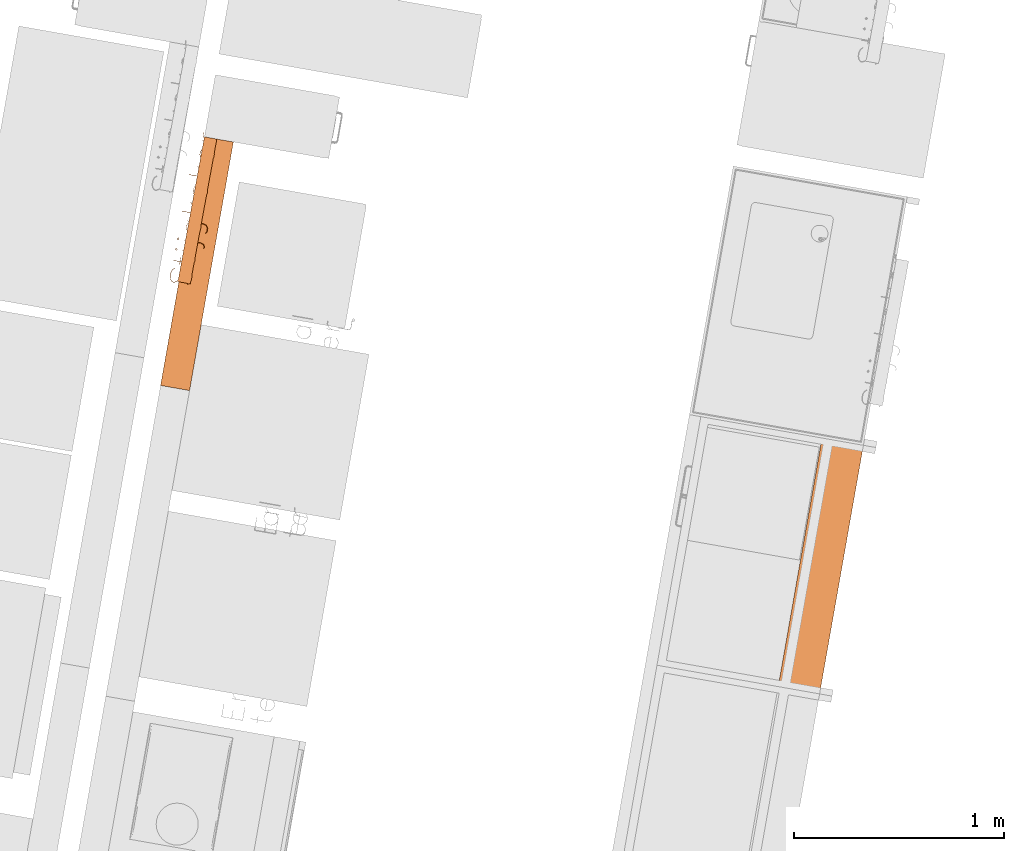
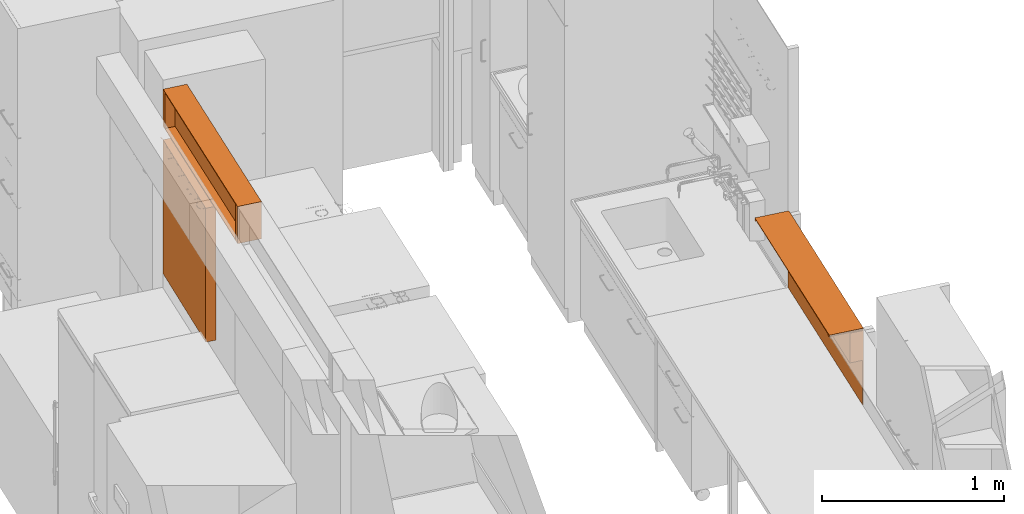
# One storey, part 30 of 43: 3 proxies.
"""IFC2X3 building model written with IfcOpenShell, lengths in metres."""

import ifcopenshell
import ifcopenshell.guid

model = None  # the IFC model being written
_history = None  # IfcOwnerHistory: only IFC2X3 demands one
_inside = {}  # id of a spatial element -> (the spatial element, [elements in it])
_under = {}  # id of a project, library or spatial element -> (it, [spatial elements below it])
_declared = {}  # id of a project -> (the project, [libraries it declares])
_typed = {}  # id of a type object -> (the type object, [elements of that type])
_made_of = {}  # id of a material, layer set ... -> (it, [elements and type objects made of it])


def new_model(schema):
    """Start an empty IFC model of exactly this schema.

    Asked for "IFC4X3", IfcOpenShell would pick the latest addendum, in which some entities
    have other attributes; the version numbers below select the first issue.
    IFC2X3 requires an IfcOwnerHistory on every rooted entity: one is made here for all.
    """
    global model, _history
    if schema == "IFC4X3":
        model = ifcopenshell.file(schema_version=(4, 3, 0, 0))
    else:
        model = ifcopenshell.file(schema=schema)
    _inside.clear()
    _under.clear()
    _declared.clear()
    _typed.clear()
    _made_of.clear()
    _history = None
    if model.schema == "IFC2X3":
        org = make("IfcOrganization", Name="unknown")
        user = make(
            "IfcPersonAndOrganization",
            ThePerson=make("IfcPerson", FamilyName="unknown"),
            TheOrganization=org,
        )
        app = make(
            "IfcApplication",
            ApplicationDeveloper=org,
            Version="unknown",
            ApplicationFullName="unknown",
            ApplicationIdentifier="unknown",
        )
        _history = make(
            "IfcOwnerHistory",
            OwningUser=user,
            OwningApplication=app,
            ChangeAction="ADDED",
            CreationDate=0,
        )
    return model


def make(cls, **values):
    """One entity of the class cls with the attributes given. An attribute that is None is left unset."""
    return model.create_entity(
        cls, **{name: value for name, value in values.items() if value is not None}
    )


def entity(cls, *values):
    """Any entity or typed value of the class cls, its attributes in the order of the schema. None: left unset."""
    e = model.create_entity(cls)
    for i, value in enumerate(values):
        if value is not None:
            e[i] = value
    return e


def rooted(cls, **values):
    """An entity with a GlobalId (a new one), such as an element, a storey or a relation."""
    return make(cls, GlobalId=ifcopenshell.guid.new(), OwnerHistory=_history, **values)


def si_unit(unit_type, name, prefix=None):
    """IfcSIUnit, for example si_unit("LENGTHUNIT", "METRE", prefix="MILLI")."""
    return make("IfcSIUnit", UnitType=unit_type, Prefix=prefix, Name=name)


def converted_unit(unit_type, name, factor, base, dimensions=None, offset=None):
    """IfcConversionBasedUnit, such as the inch: factor (a typed value) times the base unit."""
    return make(
        "IfcConversionBasedUnit"
        if offset is None
        else "IfcConversionBasedUnitWithOffset",
        ConversionOffset=offset,
        Dimensions=None
        if dimensions is None
        else entity("IfcDimensionalExponents", *dimensions),
        UnitType=unit_type,
        Name=name,
        ConversionFactor=make(
            "IfcMeasureWithUnit", ValueComponent=factor, UnitComponent=base
        ),
    )


def derived_unit(unit_type, elements):
    """IfcDerivedUnit: a product of units, each with its exponent."""
    return make(
        "IfcDerivedUnit",
        Elements=[
            make("IfcDerivedUnitElement", Unit=unit, Exponent=power)
            for unit, power in elements
        ],
        UnitType=unit_type,
    )


def assignment(units):
    """IfcUnitAssignment: the units of a project."""
    return None if units is None else make("IfcUnitAssignment", Units=units)


def point(xyz):
    """IfcCartesianPoint."""
    return None if xyz is None else make("IfcCartesianPoint", Coordinates=xyz)


def direction(xyz):
    """IfcDirection."""
    return None if xyz is None else make("IfcDirection", DirectionRatios=xyz)


def frame(location, z_axis=None, x_axis=None):
    """IfcAxis2Placement3D, a coordinate frame: its origin and axes. An axis left out is left unset."""
    return make(
        "IfcAxis2Placement3D",
        Location=point(location),
        Axis=direction(z_axis),
        RefDirection=direction(x_axis),
    )


def frame_2d(location, x_axis=None):
    """IfcAxis2Placement2D, a coordinate frame in the plane: its origin and x axis."""
    return make(
        "IfcAxis2Placement2D", Location=point(location), RefDirection=direction(x_axis)
    )


def origin():
    """The frame at (0, 0, 0) with its axes left unset."""
    return frame((0.0, 0.0, 0.0))


def origin_2d_with_axis():
    """The frame at (0, 0) in the plane with the x axis (1, 0) written out."""
    return frame_2d((0.0, 0.0), x_axis=(1.0, 0.0))


def place(relative_to, where):
    """IfcLocalPlacement: puts the frame where relative to a parent placement (None: the world)."""
    return make(
        "IfcLocalPlacement", PlacementRelTo=relative_to, RelativePlacement=where
    )


def context(
    kind, dimensions, precision=None, world=None, true_north=None, identifier=None
):
    """IfcGeometricRepresentationContext, for example the 3D "Model" context."""
    return make(
        "IfcGeometricRepresentationContext",
        ContextIdentifier=identifier,
        ContextType=kind,
        CoordinateSpaceDimension=dimensions,
        Precision=precision,
        WorldCoordinateSystem=world,
        TrueNorth=true_north,
    )


def subcontext(parent, identifier, kind, view, scale=None):
    """IfcGeometricRepresentationSubContext, for example "Body" below "Model"."""
    return make(
        "IfcGeometricRepresentationSubContext",
        ContextIdentifier=identifier,
        ContextType=kind,
        ParentContext=parent,
        TargetScale=scale,
        TargetView=view,
    )


def project(units=None, contexts=None):
    """IfcProject with its units and contexts."""
    return rooted(
        "IfcProject",
        Name="project",
        RepresentationContexts=contexts,
        UnitsInContext=assignment(units),
    )


def spatial(cls, under=None, at=None, **own):
    """A site, building, storey or space (cls), placed at a placement, below another one or the project."""
    s = rooted(cls, ObjectPlacement=at, **own)
    if under is not None:
        _under.setdefault(under.id(), (under, []))[1].append(s)
    return s


def polyline(points):
    """IfcPolyline through the points."""
    return make("IfcPolyline", Points=[point(p) for p in points])


def circle_curve(where, radius):
    """IfcCircle in the frame where."""
    return make("IfcCircle", Position=where, Radius=radius)


def parameter(value):
    """IfcParameterValue: where a trimmed curve begins or ends, as a parameter of its basis curve."""
    return model.create_entity("IfcParameterValue", value)


def trimmed(basis, trim1, trim2, sense, master):
    """IfcTrimmedCurve: the piece of a basis curve between two trims."""
    return make(
        "IfcTrimmedCurve",
        BasisCurve=basis,
        Trim1=trim1,
        Trim2=trim2,
        SenseAgreement=sense,
        MasterRepresentation=master,
    )


def segment(curve, same_sense, transition):
    """IfcCompositeCurveSegment."""
    return make(
        "IfcCompositeCurveSegment",
        Transition=transition,
        SameSense=same_sense,
        ParentCurve=curve,
    )


def composite_curve(segments, self_intersect=None):
    """IfcCompositeCurve: segments joined end to end."""
    return make("IfcCompositeCurve", Segments=segments, SelfIntersect=self_intersect)


def profile(cls, at=None, kind="AREA", **sizes):
    """A parametric profile (cls). Its sizes go by their IFC names, for example OverallWidth=200.0."""
    return make(cls, ProfileType=kind, Position=at, **sizes)


def rectangle(**sizes):
    """IfcRectangleProfileDef."""
    return profile("IfcRectangleProfileDef", **sizes)


def outline(outer, holes=None, kind="AREA"):
    """IfcArbitraryClosedProfileDef: a profile drawn as a closed curve; with holes, ...WithVoids."""
    if holes is None:
        return make("IfcArbitraryClosedProfileDef", ProfileType=kind, OuterCurve=outer)
    return make(
        "IfcArbitraryProfileDefWithVoids",
        ProfileType=kind,
        OuterCurve=outer,
        InnerCurves=holes,
    )


def extrude(swept, where, along, depth):
    """IfcExtrudedAreaSolid: the profile swept, set in the frame where, extruded along a direction by depth."""
    return make(
        "IfcExtrudedAreaSolid",
        SweptArea=swept,
        Position=where,
        ExtrudedDirection=direction(along),
        Depth=depth,
    )


def faces_of(points, faces, orient=None, outer=None):
    """IfcFace entities. A face is a list of loops; a loop is a list of indices into points, from 0.

    orient and outer hold one flag for each loop. By default every Orientation is true, the
    first loop of a face is its IfcFaceOuterBound and the others are IfcFaceBound.
    """
    made = []
    for i, loops in enumerate(faces):
        bounds = []
        for j, loop in enumerate(loops):
            is_outer = j == 0 if outer is None else outer[i][j]
            bounds.append(
                make(
                    "IfcFaceOuterBound" if is_outer else "IfcFaceBound",
                    Bound=make("IfcPolyLoop", Polygon=[points[k] for k in loop]),
                    Orientation=True if orient is None else orient[i][j],
                )
            )
        made.append(make("IfcFace", Bounds=bounds))
    return made


def face_set(faces, orient=None, outer=None):
    """The faces of one IfcConnectedFaceSet. surface_model builds it on its shared points."""
    return ("IfcConnectedFaceSet", faces, orient, outer)


def surface_model(cls, points, shells):
    """IfcFaceBasedSurfaceModel or IfcShellBasedSurfaceModel (cls): surfaces that need not close."""
    shared = [point(p) for p in points]
    made = [make(c, CfsFaces=faces_of(shared, fs, o, b)) for c, fs, o, b in shells]
    if cls == "IfcFaceBasedSurfaceModel":
        return make(cls, FbsmFaces=made)
    return make(cls, SbsmBoundary=made)


def shape(context_of_items, identifier, shape_type, items):
    """IfcShapeRepresentation: the items that make up one representation, for example the "Body"."""
    return make(
        "IfcShapeRepresentation",
        ContextOfItems=context_of_items,
        RepresentationIdentifier=identifier,
        RepresentationType=shape_type,
        Items=items,
    )


def source(mapping_origin, context_of_items, identifier, shape_type, items):
    """IfcRepresentationMap: a shape defined once, which mapped items show again and again."""
    return make(
        "IfcRepresentationMap",
        MappingOrigin=mapping_origin,
        MappedRepresentation=shape(context_of_items, identifier, shape_type, items),
    )


def transform(
    local_origin,
    x_axis=None,
    y_axis=None,
    z_axis=None,
    scale=None,
    scale2=None,
    scale3=None,
    uniform=True,
):
    """IfcCartesianTransformationOperator3D, or its non-uniform kind. x_axis, y_axis, z_axis: its Axis1, 2, 3."""
    if uniform:
        return make(
            "IfcCartesianTransformationOperator3D",
            Axis1=direction(x_axis),
            Axis2=direction(y_axis),
            LocalOrigin=point(local_origin),
            Scale=scale,
            Axis3=direction(z_axis),
        )
    return make(
        "IfcCartesianTransformationOperator3DnonUniform",
        Axis1=direction(x_axis),
        Axis2=direction(y_axis),
        LocalOrigin=point(local_origin),
        Scale=scale,
        Axis3=direction(z_axis),
        Scale2=scale2,
        Scale3=scale3,
    )


def mapped(mapping_source, mapping_target):
    """IfcMappedItem: shows the shape of a source again, moved by a transform."""
    return make(
        "IfcMappedItem", MappingSource=mapping_source, MappingTarget=mapping_target
    )


def material(Name=None, Category=None):
    """IfcMaterial."""
    return make("IfcMaterial", Name=Name, Category=Category)


def material_list(materials):
    """IfcMaterialList."""
    return make("IfcMaterialList", Materials=materials)


def made_of(thing, what):
    """Note that an element or type object is made of a material, layer set ...; save() writes the relation."""
    if what is not None:
        _made_of.setdefault(what.id(), (what, []))[1].append(thing)
    return thing


def type_object(cls, material=None, **own):
    """A type object (cls), such as IfcWallType, which elements share."""
    return made_of(rooted(cls, **own), material)


def type_shapes(of_type, sources):
    """Give a type object the sources (RepresentationMaps) that its elements show as mapped items."""
    of_type.RepresentationMaps = sources


def element(
    cls,
    number,
    at=None,
    inside=None,
    cuts=None,
    type_object=None,
    material=None,
    context=None,
    identifier="Body",
    shape_type=None,
    held_by="IfcProductDefinitionShape",
    body=None,
    shapes=None,
    **own,
):
    """One element of the class cls, such as IfcWall. Its Tag is "e" and its number.

    at: its placement. inside: the storey or other place that contains it. cuts: it is an
    opening in that element (IfcRelVoidsElement). A single representation is given by context,
    identifier, shape_type and body (its items); several are given by shapes. held_by: the class
    of the entity that holds the representations. save() writes the other relations.
    """
    e = rooted(cls, Tag="e%d" % number, ObjectPlacement=at, **own)
    if body is not None:
        shapes = [shape(context, identifier, shape_type, body)]
    if shapes is not None:
        e.Representation = make(held_by, Representations=shapes)
    if inside is not None:
        _inside.setdefault(inside.id(), (inside, []))[1].append(e)
    if cuts is not None:
        rooted(
            "IfcRelVoidsElement", RelatingBuildingElement=cuts, RelatedOpeningElement=e
        )
    if type_object is not None:
        _typed.setdefault(type_object.id(), (type_object, []))[1].append(e)
    return made_of(e, material)


def aggregate(whole, parts):
    """IfcRelAggregates: a whole, such as a stair, and the parts it consists of."""
    return rooted("IfcRelAggregates", RelatingObject=whole, RelatedObjects=parts)


def save(model, path):
    """Write the relations noted so far, then the file.

    IfcRelAggregates (storeys below a building ...), IfcRelContainedInSpatialStructure (elements
    in a storey), IfcRelDefinesByType, IfcRelAssociatesMaterial and IfcRelDeclares: one each for
    every whole, place, type object, material and project.
    """
    for whole, parts in _under.values():
        aggregate(whole, parts)
    for where, things in _inside.values():
        rooted(
            "IfcRelContainedInSpatialStructure",
            RelatedElements=things,
            RelatingStructure=where,
        )
    for kind, things in _typed.values():
        rooted("IfcRelDefinesByType", RelatedObjects=things, RelatingType=kind)
    for what, things in _made_of.values():
        rooted("IfcRelAssociatesMaterial", RelatedObjects=things, RelatingMaterial=what)
    for by, libraries in _declared.values():
        rooted("IfcRelDeclares", RelatingContext=by, RelatedDefinitions=libraries)
    model.write(path)


model = new_model("IFC2X3")

# Units and contexts
model_context = context("Model", 3, precision=1e-05, world=origin(), true_north=direction((6.12303176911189e-17, 1.0)))
body_context = subcontext(model_context, "Body", "Model", "MODEL_VIEW")
ifc_project = project(units=[si_unit("LENGTHUNIT", "METRE"), si_unit("AREAUNIT", "SQUARE_METRE"), si_unit("VOLUMEUNIT", "CUBIC_METRE"), converted_unit("PLANEANGLEUNIT", "DEGREE", entity("IfcRatioMeasure", 0.0174532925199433), si_unit("PLANEANGLEUNIT", "RADIAN"), dimensions=[0, 0, 0, 0, 0, 0, 0]), si_unit("MASSUNIT", "GRAM", prefix="KILO"), derived_unit("MASSDENSITYUNIT", [(si_unit("MASSUNIT", "GRAM", prefix="KILO"), 1), (si_unit("LENGTHUNIT", "METRE"), -3)]), derived_unit("MOMENTOFINERTIAUNIT", [(si_unit("LENGTHUNIT", "METRE"), 4)]), si_unit("TIMEUNIT", "SECOND"), si_unit("FREQUENCYUNIT", "HERTZ"), si_unit("THERMODYNAMICTEMPERATUREUNIT", "DEGREE_CELSIUS"), derived_unit("THERMALTRANSMITTANCEUNIT", [(si_unit("MASSUNIT", "GRAM", prefix="KILO"), 1), (si_unit("THERMODYNAMICTEMPERATUREUNIT", "KELVIN"), -1), (si_unit("TIMEUNIT", "SECOND"), -3)]), derived_unit("VOLUMETRICFLOWRATEUNIT", [(si_unit("LENGTHUNIT", "METRE"), 3), (si_unit("TIMEUNIT", "SECOND"), -1)]), si_unit("ELECTRICCURRENTUNIT", "AMPERE"), si_unit("ELECTRICVOLTAGEUNIT", "VOLT"), si_unit("POWERUNIT", "WATT"), si_unit("FORCEUNIT", "NEWTON", prefix="KILO"), si_unit("ILLUMINANCEUNIT", "LUX"), si_unit("LUMINOUSFLUXUNIT", "LUMEN"), si_unit("LUMINOUSINTENSITYUNIT", "CANDELA"), derived_unit("USERDEFINED", [(si_unit("MASSUNIT", "GRAM", prefix="KILO"), -1), (si_unit("LENGTHUNIT", "METRE"), -2), (si_unit("TIMEUNIT", "SECOND"), 3), (si_unit("LUMINOUSFLUXUNIT", "LUMEN"), 1)]), derived_unit("LINEARVELOCITYUNIT", [(si_unit("LENGTHUNIT", "METRE"), 1), (si_unit("TIMEUNIT", "SECOND"), -1)]), si_unit("PRESSUREUNIT", "PASCAL"), derived_unit("USERDEFINED", [(si_unit("LENGTHUNIT", "METRE"), -2), (si_unit("MASSUNIT", "GRAM", prefix="KILO"), 1), (si_unit("TIMEUNIT", "SECOND"), -2)]), derived_unit("LINEARFORCEUNIT", [(si_unit("MASSUNIT", "GRAM", prefix="KILO"), 1), (si_unit("LENGTHUNIT", "METRE"), 1), (si_unit("TIMEUNIT", "SECOND"), -2), (si_unit("LENGTHUNIT", "METRE"), -1)]), derived_unit("PLANARFORCEUNIT", [(si_unit("MASSUNIT", "GRAM", prefix="KILO"), 1), (si_unit("LENGTHUNIT", "METRE"), 1), (si_unit("TIMEUNIT", "SECOND"), -2), (si_unit("LENGTHUNIT", "METRE"), -2)])], contexts=[model_context])

# Site, building, storey
site_placement = place(None, origin())
site = spatial("IfcSite", under=ifc_project, at=site_placement, Name="Default", CompositionType="ELEMENT")
building_placement = place(site_placement, origin())
building = spatial("IfcBuilding", under=site, at=building_placement, CompositionType="ELEMENT")
storey_placement = place(building_placement, frame((0.0, 0.0, 3.0)))
storey = spatial("IfcBuildingStorey", under=building, at=storey_placement, Name="01 OG", CompositionType="ELEMENT", Elevation=3.0)

# Proxies
ifc_material_1 = material(Name="dh_Weiß")
ifc_material_2 = material(Name="dh_Glas WHS")
ifc_material_3 = material(Name="dh_Blau")
ifc_material_list_1 = material_list([ifc_material_1, ifc_material_2, ifc_material_3])
ifc_material_list_2 = material_list([ifc_material_2, ifc_material_3, ifc_material_1])
building_element_proxy_type_1 = type_object("IfcBuildingElementProxyType", Name="dh_Medienwand WHA:120 Stehtisch", PredefinedType="NOTDEFINED", material=ifc_material_list_2)
shared_shape_1 = source(origin(), body_context, "Body", "SweptSolid", [
    extrude(outline(composite_curve([segment(trimmed(circle_curve(frame_2d((0.0, 0.0), x_axis=(-1.0, 0.0)), 0.01), [parameter(0.0)], [parameter(180.0)], True, "PARAMETER"), True, "CONTINUOUS"), segment(polyline([(0.01, 0.0), (-0.01, 0.0)]), True, "CONTINUOUS")], self_intersect=False)), frame((-0.589999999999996, 0.1, 1.40999999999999), z_axis=(0.0, -1.0, 0.0), x_axis=(1.0, 0.0, 0.0)), (0.0, 0.0, -1.0), 0.2),
    extrude(outline(composite_curve([segment(trimmed(circle_curve(origin_2d_with_axis(), 0.00999999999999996), [parameter(0.0)], [parameter(180.0)], True, "PARAMETER"), True, "CONTINUOUS"), segment(polyline([(-0.0099999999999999, 0.0), (0.0099999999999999, 0.0)]), True, "CONTINUOUS")], self_intersect=False)), frame((0.590000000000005, 0.1, 1.40999999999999), z_axis=(0.0, 1.0, 0.0), x_axis=(1.0, 0.0, 0.0)), (0.0, 0.0, 1.0), 0.2),
    extrude(rectangle(XDim=1.2, YDim=0.2, at=origin_2d_with_axis()), frame((0.0, 0.2, 1.40999999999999), z_axis=(0.0, 0.0, 1.0), x_axis=(-1.0, 0.0, 0.0)), (0.0, 0.0, 1.0), 0.00499999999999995),
    extrude(rectangle(XDim=0.00500000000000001, YDim=1.2, at=frame_2d((-3.38271077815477e-17, 0.0), x_axis=(1.0, 0.0))), frame((0.0, 0.2975, 0.900000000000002), z_axis=(0.0, 0.0, 1.0), x_axis=(0.0, 1.0, 0.0)), (0.0, 0.0, 1.0), 0.299999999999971),
    extrude(rectangle(XDim=1.2, YDim=0.08, at=frame_2d((0.0, 3.46944695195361e-17), x_axis=(1.0, 0.0))), frame((0.0, 0.26, 1.20000000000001), z_axis=(0.0, 0.0, 1.0), x_axis=(-1.0, 0.0, 0.0)), (0.0, 0.0, 1.0), 0.199999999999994),
])
type_shapes(building_element_proxy_type_1, [shared_shape_1])
proxy_1_placement = place(storey_placement, frame((29.130980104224, 9.43160592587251, 0.0), z_axis=(0.0, 0.0, 1.0), x_axis=(-0.173648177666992, -0.984807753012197, 0.0)))
element("IfcBuildingElementProxy", 1, at=proxy_1_placement, inside=storey, type_object=building_element_proxy_type_1, material=ifc_material_list_1, Name="dh_Medienwand WHA:120 Stehtisch", ObjectType="dh_Medienwand WHA:120 Stehtisch", context=body_context, shape_type="MappedRepresentation", body=[
    mapped(shared_shape_1, transform((0.0, 0.0, 0.0), scale=1.0)),
])
ifc_material_4 = material(Name="dh_EZ blau")
ifc_material_list_3 = material_list([ifc_material_4, ifc_material_1])
ifc_material_list_4 = material_list([ifc_material_1, ifc_material_3, ifc_material_4])
building_element_proxy_type_2 = type_object("IfcBuildingElementProxyType", Name="dh_Einzel_ MEK:MEK 120", PredefinedType="NOTDEFINED", material=ifc_material_list_4)
shared_shape_2 = source(origin(), body_context, "Body", "SweptSolid", [
    extrude(rectangle(XDim=0.06, YDim=0.0299999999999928, at=origin_2d_with_axis()), frame((0.585000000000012, 0.33, 2.19499999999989), z_axis=(0.0, 0.0, 1.0), x_axis=(0.0, 1.0, 0.0)), (0.0, 0.0, 1.0), 0.240000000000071),
    extrude(rectangle(XDim=0.06, YDim=0.0299999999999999, at=origin_2d_with_axis()), frame((-0.584999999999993, 0.33, 2.19499999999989), z_axis=(0.0, 0.0, 1.0), x_axis=(0.0, 1.0, 0.0)), (0.0, 0.0, 1.0), 0.240000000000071),
    extrude(rectangle(XDim=0.06, YDim=1.20000000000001, at=frame_2d((0.0, -2.05391259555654e-15), x_axis=(1.0, 0.0))), frame((0.0, 0.33, 2.43499999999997), z_axis=(0.0, 0.0, 1.0), x_axis=(0.0, 1.0, 0.0)), (0.0, 0.0, 1.0), 0.00500000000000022),
    extrude(rectangle(XDim=1.20000000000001, YDim=0.14, at=frame_2d((-3.21964677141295e-15, -0.00333333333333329), x_axis=(1.0, 0.0))), frame((0.0, 0.293333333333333, 2.18999999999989)), (0.0, 0.0, 1.0), 0.00499999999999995),
    extrude(rectangle(XDim=0.08, YDim=1.20000000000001, at=frame_2d((0.0133333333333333, 2.55351295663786e-15), x_axis=(1.0, 0.0))), frame((0.0, 0.273333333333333, 2.43499999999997), z_axis=(0.0, 0.0, 1.0), x_axis=(0.0, -1.0, 0.0)), (0.0, 0.0, 1.0), 0.00499999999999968),
    extrude(rectangle(XDim=1.2, YDim=0.08, at=frame_2d((0.0, 3.46944695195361e-17), x_axis=(1.0, 0.0))), frame((0.0, 0.26, 2.195), z_axis=(0.0, 0.0, 1.0), x_axis=(-1.0, 0.0, 0.0)), (0.0, 0.0, 1.0), 0.239999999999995),
])
type_shapes(building_element_proxy_type_2, [shared_shape_2])
proxy_2_placement = place(storey_placement, frame((26.6479786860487, 10.7833100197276, 0.0), z_axis=(0.0, 0.0, 1.0), x_axis=(0.173648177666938, 0.984807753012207, 0.0)))
element("IfcBuildingElementProxy", 2, at=proxy_2_placement, inside=storey, type_object=building_element_proxy_type_2, material=ifc_material_list_3, Name="dh_Einzel_ MEK:MEK 120", ObjectType="dh_Einzel_ MEK:MEK 120", context=body_context, shape_type="MappedRepresentation", body=[
    mapped(shared_shape_2, transform((0.0, 0.0, 0.0), scale=1.0)),
])
ifc_material_5 = material(Name="dh_Stellfläche")
building_element_proxy_type_3 = type_object("IfcBuildingElementProxyType", Name="dh_Gerät_Stellfläche Bestand:Nutzergerät", PredefinedType="NOTDEFINED", material=ifc_material_5)
shared_shape_3 = source(origin(), body_context, "Body", "SurfaceModel", [
    surface_model("IfcFaceBasedSurfaceModel", [(-0.355113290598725, -0.0453817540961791, 0.905000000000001), (-0.356700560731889, -0.0470458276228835, 0.905000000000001), (-0.346946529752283, -0.0567998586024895, 0.905000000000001), (-0.332277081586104, -0.0616384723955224, 0.905000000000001), (-0.312948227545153, -0.0616384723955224, 0.905000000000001), (-0.298278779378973, -0.0567998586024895, 0.905000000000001), (-0.288166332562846, -0.0466618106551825, 0.905000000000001), (-0.288166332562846, -0.0314547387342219, 0.905000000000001), (-0.29308174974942, -0.0214446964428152, 0.905000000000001), (-0.298073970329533, -0.0163500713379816, 0.905000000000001), (-0.307904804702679, -0.0115114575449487, 0.905000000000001), (-0.336450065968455, -0.00188543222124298, 0.905000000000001), (-0.34569207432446, 0.00295318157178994, 0.905000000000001), (-0.350197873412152, 0.00745898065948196, 0.905000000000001), (-0.354857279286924, 0.0166497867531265, 0.905000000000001), (-0.354857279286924, 0.0255845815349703, 0.905000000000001), (-0.34582007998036, 0.0347241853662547, 0.905000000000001), (-0.331944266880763, 0.0393579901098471, 0.905000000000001), (-0.313204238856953, 0.0393579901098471, 0.905000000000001), (-0.299328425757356, 0.0347241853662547, 0.905000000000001), (-0.290112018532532, 0.0252005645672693, 0.905000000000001), (-0.288447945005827, 0.0268646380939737, 0.905000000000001), (-0.298278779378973, 0.0366186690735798, 0.905000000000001), (-0.312948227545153, 0.041585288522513, 0.905000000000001), (-0.332277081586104, 0.041585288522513, 0.905000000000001), (-0.346946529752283, 0.0366186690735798, 0.905000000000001), (-0.35698217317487, 0.0264550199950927, 0.905000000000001), (-0.35698217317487, 0.016112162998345, 0.905000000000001), (-0.352117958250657, 0.00610212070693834, 0.905000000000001), (-0.347074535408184, 0.00100749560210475, 0.905000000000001), (-0.337243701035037, -0.00383111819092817, 0.905000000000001), (-0.308698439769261, -0.0134571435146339, 0.905000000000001), (-0.299456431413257, -0.0182957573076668, 0.905000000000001), (-0.294950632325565, -0.0228015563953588, 0.905000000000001), (-0.290368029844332, -0.0320691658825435, 0.905000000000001), (-0.290368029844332, -0.0457657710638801, 0.905000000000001), (-0.299328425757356, -0.0549053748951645, 0.905000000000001), (-0.313204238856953, -0.0595647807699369, 0.905000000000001), (-0.331944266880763, -0.0595647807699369, 0.905000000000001), (-0.34582007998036, -0.0549053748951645, 0.905000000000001), (-0.230691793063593, -0.0616384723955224, 0.905000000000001), (-0.230691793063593, -0.0595647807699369, 0.905000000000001), (-0.239908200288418, -0.0595647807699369, 0.905000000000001), (-0.248740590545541, -0.055084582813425, 0.905000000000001), (-0.253399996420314, -0.0413879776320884, 0.905000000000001), (-0.253399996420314, 0.00533408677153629, 0.905000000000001), (-0.235402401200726, 0.00533408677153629, 0.905000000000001), (-0.235402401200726, 0.00745898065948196, 0.905000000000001), (-0.253399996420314, 0.00745898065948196, 0.905000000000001), (-0.253399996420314, 0.0399468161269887, 0.905000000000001), (-0.255576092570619, 0.0399468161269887, 0.905000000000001), (-0.255576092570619, 0.00745898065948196, 0.905000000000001), (-0.268735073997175, 0.00745898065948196, 0.905000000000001), (-0.268735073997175, 0.00533408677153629, 0.905000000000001), (-0.255576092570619, 0.00533408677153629, 0.905000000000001), (-0.255576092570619, -0.0416439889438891, 0.905000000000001), (-0.250660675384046, -0.0566974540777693, 0.905000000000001), (-0.240445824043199, -0.0616384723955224, 0.905000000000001), (-0.201327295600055, -0.0599999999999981, 0.905000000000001), (-0.199202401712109, -0.0599999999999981, 0.905000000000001), (-0.199202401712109, 0.00666534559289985, 0.905000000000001), (-0.201327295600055, 0.00666534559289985, 0.905000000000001), (-0.17329405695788, -0.0922318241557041, 0.905000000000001), (-0.17329405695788, -0.0944079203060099, 0.905000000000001), (-0.163744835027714, -0.0944079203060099, 0.905000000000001), (-0.153581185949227, -0.0893644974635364, 0.905000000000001), (-0.148665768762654, -0.0744390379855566, 0.905000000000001), (-0.148665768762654, 0.00651173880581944, 0.905000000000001), (-0.15086746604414, 0.00651173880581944, 0.905000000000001), (-0.15086746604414, -0.0741574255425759, 0.905000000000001), (-0.155501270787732, -0.087700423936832, 0.905000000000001), (-0.164333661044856, -0.0922318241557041, 0.905000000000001), (-0.100049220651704, -0.0875980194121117, 0.905000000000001), (-0.101175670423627, -0.0895181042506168, 0.905000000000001), (-0.0913448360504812, -0.0944079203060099, 0.905000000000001), (-0.0765473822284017, -0.0944079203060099, 0.905000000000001), (-0.0666397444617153, -0.0895181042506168, 0.905000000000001), (-0.0615963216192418, -0.0843466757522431, 0.905000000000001), (-0.0566809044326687, -0.069728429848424, 0.905000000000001), (-0.0566809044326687, 0.00615332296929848, 0.905000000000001), (-0.0588826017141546, 0.00615332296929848, 0.905000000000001), (-0.0588826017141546, -0.00552079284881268, 0.905000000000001), (-0.0666397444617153, 0.0023387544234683, 0.905000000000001), (-0.0765473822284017, 0.00717736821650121, 0.905000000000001), (-0.0913448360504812, 0.00717736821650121, 0.905000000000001), (-0.101303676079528, 0.0023387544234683, 0.905000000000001), (-0.111057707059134, -0.00756888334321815, 0.905000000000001), (-0.115973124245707, -0.0221871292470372, 0.905000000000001), (-0.115973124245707, -0.0319923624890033, 0.905000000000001), (-0.111057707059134, -0.0465850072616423, 0.905000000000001), (-0.101303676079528, -0.0564926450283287, 0.905000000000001), (-0.0913448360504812, -0.0612544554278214, 0.905000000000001), (-0.0765473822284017, -0.0612544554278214, 0.905000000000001), (-0.0666397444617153, -0.0564926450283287, 0.905000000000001), (-0.0588826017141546, -0.0485818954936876, 0.905000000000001), (-0.0588826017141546, -0.0694724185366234, 0.905000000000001), (-0.0634652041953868, -0.0832970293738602, 0.905000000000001), (-0.0679710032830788, -0.0875980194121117, 0.905000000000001), (-0.077059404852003, -0.0922318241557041, 0.905000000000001), (-0.0908072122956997, -0.0922318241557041, 0.905000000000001), (-0.0588826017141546, -0.0452537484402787, 0.905000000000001), (-0.0679710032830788, -0.0542909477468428, 0.905000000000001), (-0.077059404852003, -0.0588735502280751, 0.905000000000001), (-0.0908072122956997, -0.0588735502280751, 0.905000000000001), (-0.0999212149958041, -0.0542909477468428, 0.905000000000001), (-0.109214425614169, -0.0451257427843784, 0.905000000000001), (-0.113797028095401, -0.0312499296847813, 0.905000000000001), (-0.113797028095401, -0.0220079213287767, 0.905000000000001), (-0.109214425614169, -0.00813210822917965, 0.905000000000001), (-0.0999212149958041, 0.000956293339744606, 0.905000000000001), (-0.0908072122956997, 0.00561569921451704, 0.905000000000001), (-0.077059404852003, 0.00561569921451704, 0.905000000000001), (-0.0679710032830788, 0.000956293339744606, 0.905000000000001), (-0.0588826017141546, -0.00800410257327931, 0.905000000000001), (-0.017818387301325, -0.0599999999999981, 0.905000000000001), (-0.0156934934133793, -0.0599999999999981, 0.905000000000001), (-0.0156934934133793, -0.0413367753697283, 0.905000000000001), (0.00230410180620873, -0.0235439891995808, 0.905000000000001), (0.0347919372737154, -0.0599999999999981, 0.905000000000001), (0.0364560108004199, -0.0587455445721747, 0.905000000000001), (0.00376336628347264, -0.0214958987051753, 0.905000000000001), (0.0316685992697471, 0.00625572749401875, 0.905000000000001), (0.0300813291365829, 0.00784299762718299, 0.905000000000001), (-0.0156934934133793, -0.0379574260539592, 0.905000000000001), (-0.0156934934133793, 0.0399468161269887, 0.905000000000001), (-0.017818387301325, 0.0399468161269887, 0.905000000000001), (0.120146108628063, -0.0469178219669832, 0.905000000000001), (0.125061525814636, -0.0322227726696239, 0.905000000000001), (0.125061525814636, -0.0223663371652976, 0.905000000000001), (0.120146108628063, -0.00767128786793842, 0.905000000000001), (0.110315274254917, 0.00231315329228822, 0.905000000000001), (0.100407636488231, 0.00717736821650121, 0.905000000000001), (0.0856101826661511, 0.00717736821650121, 0.905000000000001), (0.0756513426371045, 0.00231315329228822, 0.905000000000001), (0.0658973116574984, -0.00767128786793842, 0.905000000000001), (0.0609818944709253, -0.0223663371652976, 0.905000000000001), (0.0609818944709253, -0.0322227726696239, 0.905000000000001), (0.0658973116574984, -0.0469178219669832, 0.905000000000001), (0.0756513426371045, -0.0568510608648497, 0.905000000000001), (0.0856101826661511, -0.0616384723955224, 0.905000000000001), (0.100407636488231, -0.0616384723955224, 0.905000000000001), (0.110315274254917, -0.0568510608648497, 0.905000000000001), (0.118200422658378, -0.0451257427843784, 0.905000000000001), (0.108984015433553, -0.0542909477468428, 0.905000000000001), (0.0998956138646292, -0.0588735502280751, 0.905000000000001), (0.0861478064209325, -0.0588735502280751, 0.905000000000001), (0.0770338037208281, -0.0542909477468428, 0.905000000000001), (0.0677405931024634, -0.0451257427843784, 0.905000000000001), (0.0631579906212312, -0.0312499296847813, 0.905000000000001), (0.0631579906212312, -0.0220079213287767, 0.905000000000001), (0.0677405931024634, -0.00813210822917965, 0.905000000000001), (0.0770338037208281, 0.000956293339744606, 0.905000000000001), (0.0861478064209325, 0.00561569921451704, 0.905000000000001), (0.0998956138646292, 0.00561569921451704, 0.905000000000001), (0.108984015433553, 0.000956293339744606, 0.905000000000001), (0.118200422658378, -0.00813210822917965, 0.905000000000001), (0.12285982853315, -0.0220079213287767, 0.905000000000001), (0.12285982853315, -0.0312499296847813, 0.905000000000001), (0.159136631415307, -0.0599999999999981, 0.905000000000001), (0.161261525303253, -0.0599999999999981, 0.905000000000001), (0.161261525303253, -0.0413367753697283, 0.905000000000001), (0.179259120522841, -0.0235439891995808, 0.905000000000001), (0.211746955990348, -0.0599999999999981, 0.905000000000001), (0.213411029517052, -0.0587455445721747, 0.905000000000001), (0.180718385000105, -0.0214958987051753, 0.905000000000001), (0.208623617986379, 0.00625572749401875, 0.905000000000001), (0.207036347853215, 0.00784299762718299, 0.905000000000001), (0.161261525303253, -0.0379574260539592, 0.905000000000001), (0.161261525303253, 0.0399468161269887, 0.905000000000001), (0.159136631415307, 0.0399468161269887, 0.905000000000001), (0.296973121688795, -0.0471994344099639, 0.905000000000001), (0.295309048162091, -0.0455353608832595, 0.905000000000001), (0.285939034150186, -0.0549821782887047, 0.905000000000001), (0.276850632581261, -0.0595647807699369, 0.905000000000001), (0.263102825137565, -0.0595647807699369, 0.905000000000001), (0.253988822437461, -0.0549821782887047, 0.905000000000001), (0.244695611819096, -0.0457913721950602, 0.905000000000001), (0.240113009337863, -0.0318899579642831, 0.905000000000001), (0.240113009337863, -0.0236463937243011, 0.905000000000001), (0.297229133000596, -0.0236463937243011, 0.905000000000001), (0.297229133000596, -0.0127147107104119, 0.905000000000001), (0.292313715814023, -0.00273026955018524, 0.905000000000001), (0.287270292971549, 0.00231315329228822, 0.905000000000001), (0.277362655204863, 0.00717736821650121, 0.905000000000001), (0.262565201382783, 0.00717736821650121, 0.905000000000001), (0.252606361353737, 0.00231315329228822, 0.905000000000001), (0.242852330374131, -0.00767128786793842, 0.905000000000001), (0.237936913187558, -0.0223663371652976, 0.905000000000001), (0.237936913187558, -0.0322227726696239, 0.905000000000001), (0.242852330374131, -0.0469178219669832, 0.905000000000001), (0.252606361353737, -0.0568510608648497, 0.905000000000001), (0.262565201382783, -0.0616384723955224, 0.905000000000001), (0.277362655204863, -0.0616384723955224, 0.905000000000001), (0.287270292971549, -0.0568510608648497, 0.905000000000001), (0.240522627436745, -0.0214446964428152, 0.905000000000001), (0.244695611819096, -0.00874653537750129, 0.905000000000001), (0.253988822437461, 0.000341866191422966, 0.905000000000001), (0.263102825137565, 0.0050012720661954, 0.905000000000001), (0.276850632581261, 0.0050012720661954, 0.905000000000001), (0.285939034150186, 0.000341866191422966, 0.905000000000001), (0.290444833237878, -0.00416393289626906, 0.905000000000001), (0.29502743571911, -0.0132779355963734, 0.905000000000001), (0.29502743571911, -0.0214446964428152, 0.905000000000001), (0.331176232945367, -0.0599999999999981, 0.905000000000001), (0.333301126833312, -0.0599999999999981, 0.905000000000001), (0.333301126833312, -0.0223407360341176, 0.905000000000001), (0.337960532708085, -0.00856732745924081, 0.905000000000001), (0.347202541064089, 0.000469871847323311, 0.905000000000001), (0.356342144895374, 0.00507807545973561, 0.905000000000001), (0.370371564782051, 0.00507807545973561, 0.905000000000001), (0.370371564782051, 0.00717736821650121, 0.905000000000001), (0.355753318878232, 0.00717736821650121, 0.905000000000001), (0.345871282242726, 0.00236435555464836, 0.905000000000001), (0.336040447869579, -0.00751768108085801, 0.905000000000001), (0.333301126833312, -0.0156076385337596, 0.905000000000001), (0.333301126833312, 0.00630692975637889, 0.905000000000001), (0.331176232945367, 0.00630692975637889, 0.905000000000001), (-0.149792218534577, 0.0291175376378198, 0.905000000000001), (-0.14349434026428, 0.0353386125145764, 0.905000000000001), (-0.149792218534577, 0.041585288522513, 0.905000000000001), (-0.156038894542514, 0.0353386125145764, 0.905000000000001), (-0.149792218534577, 0.0319592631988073, 0.905000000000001), (-0.153043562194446, 0.035210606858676, 0.905000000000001), (-0.149792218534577, 0.0384875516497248, 0.905000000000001), (-0.146464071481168, 0.035210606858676, 0.905000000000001), (-0.200252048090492, 0.0291175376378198, 0.905000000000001), (-0.194005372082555, 0.0353386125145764, 0.905000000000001), (-0.200252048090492, 0.041585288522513, 0.905000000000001), (-0.206498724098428, 0.0353386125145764, 0.905000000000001), (-0.200252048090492, 0.0319592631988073, 0.905000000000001), (-0.20350339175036, 0.035210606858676, 0.905000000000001), (-0.200252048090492, 0.0384875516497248, 0.905000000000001), (-0.197000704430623, 0.035210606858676, 0.905000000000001), (0.35, 0.0, 0.9), (0.35, -0.06, 0.9), (-0.35, -0.06, 0.9), (-0.35, 0.0, 0.9), (0.35, 0.0, 0.0), (0.35, -0.06, 0.0), (-0.35, -0.06, 0.0), (-0.35, 0.0, 0.0)], [face_set([[[0, 1, 2, 3, 4, 5, 6, 7, 8, 9, 10, 11, 12, 13, 14, 15, 16, 17, 18, 19, 20, 21, 22, 23, 24, 25, 26, 27, 28, 29, 30, 31, 32, 33, 34, 35, 36, 37, 38, 39]]]), face_set([[[40, 41, 42, 43, 44, 45, 46, 47, 48, 49, 50, 51, 52, 53, 54, 55, 56, 57]]]), face_set([[[58, 59, 60, 61]]]), face_set([[[62, 63, 64, 65, 66, 67, 68, 69, 70, 71]]]), face_set([[[72, 73, 74, 75, 76, 77, 78, 79, 80, 81, 82, 83, 84, 85, 86, 87, 88, 89, 90, 91, 92, 93, 94, 95, 96, 97, 98, 99], [100, 101, 102, 103, 104, 105, 106, 107, 108, 109, 110, 111, 112, 113]]]), face_set([[[114, 115, 116, 117, 118, 119, 120, 121, 122, 123, 124, 125]]]), face_set([[[126, 127, 128, 129, 130, 131, 132, 133, 134, 135, 136, 137, 138, 139, 140, 141], [142, 143, 144, 145, 146, 147, 148, 149, 150, 151, 152, 153, 154, 155, 156, 157]]]), face_set([[[158, 159, 160, 161, 162, 163, 164, 165, 166, 167, 168, 169]]]), face_set([[[170, 171, 172, 173, 174, 175, 176, 177, 178, 179, 180, 181, 182, 183, 184, 185, 186, 187, 188, 189, 190, 191, 192, 193], [194, 195, 196, 197, 198, 199, 200, 201, 202]]]), face_set([[[203, 204, 205, 206, 207, 208, 209, 210, 211, 212, 213, 214, 215, 216]]]), face_set([[[217, 218, 219, 220], [221, 222, 223, 224]]]), face_set([[[225, 226, 227, 228], [229, 230, 231, 232]]]), face_set([[[233, 234, 235, 236]], [[237, 238, 239, 240]], [[236, 233, 237, 240]], [[235, 236, 240, 239]], [[234, 238, 239, 235]], [[233, 234, 238, 237]]])]),
])
type_shapes(building_element_proxy_type_3, [shared_shape_3])
proxy_3_placement = place(storey_placement, frame((26.3346075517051, 11.0928415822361, 1.2), z_axis=(0.0, 0.0, 1.0), x_axis=(0.180288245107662, 0.983613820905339, 0.0)))
element("IfcBuildingElementProxy", 3, at=proxy_3_placement, inside=storey, type_object=building_element_proxy_type_3, material=ifc_material_5, Name="dh_Gerät_Stellfläche Bestand:Nutzergerät", ObjectType="dh_Gerät_Stellfläche Bestand:Nutzergerät", context=body_context, shape_type="MappedRepresentation", body=[
    mapped(shared_shape_3, transform((0.0, 0.0, 0.0), scale=1.0)),
])

save(model, "model.ifc")
